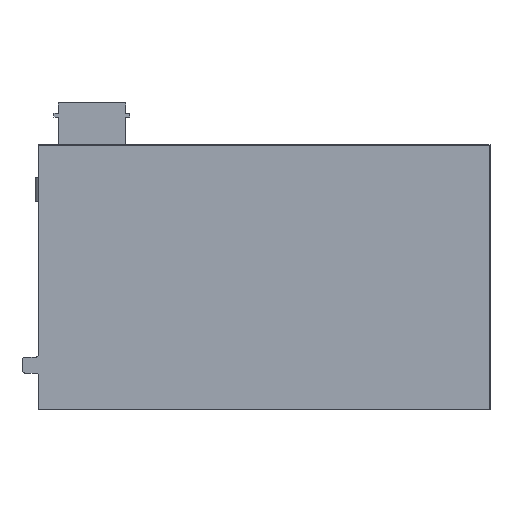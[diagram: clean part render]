
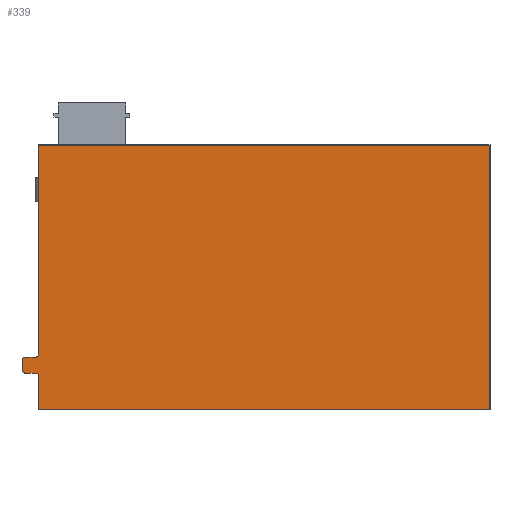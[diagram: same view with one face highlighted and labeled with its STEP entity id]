
A CAD part, top view. The second image highlights one B-rep face of the part: STEP entity #339.
In plain terms, the highlighted planar face has unit normal (0, 0, 1).
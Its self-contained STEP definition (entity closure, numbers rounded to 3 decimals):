
#115 = VERTEX_POINT('',#116);
#116 = CARTESIAN_POINT('',(-0.747,8.3,3.54));
#122 = EDGE_CURVE('',#115,#123,#125,.T.);
#123 = VERTEX_POINT('',#124);
#124 = CARTESIAN_POINT('',(-3.047,8.3,3.54));
#125 = LINE('',#126,#127);
#126 = CARTESIAN_POINT('',(0.053,8.3,3.54));
#127 = VECTOR('',#128,1.);
#128 = DIRECTION('',(-1.,0.,0.));
#146 = VERTEX_POINT('',#147);
#147 = CARTESIAN_POINT('',(0.053,7.5,3.54));
#153 = EDGE_CURVE('',#115,#146,#154,.T.);
#154 = CIRCLE('',#155,0.8);
#155 = AXIS2_PLACEMENT_3D('',#156,#157,#158);
#156 = CARTESIAN_POINT('',(-0.747,7.5,3.54));
#157 = DIRECTION('',(-0.,-0.,-1.));
#158 = DIRECTION('',(0.,-1.,0.));
#171 = VERTEX_POINT('',#172);
#172 = CARTESIAN_POINT('',(-3.847,9.1,3.54));
#178 = EDGE_CURVE('',#123,#171,#179,.T.);
#179 = CIRCLE('',#180,0.8);
#180 = AXIS2_PLACEMENT_3D('',#181,#182,#183);
#181 = CARTESIAN_POINT('',(-3.047,9.1,3.54));
#182 = DIRECTION('',(-0.,-0.,-1.));
#183 = DIRECTION('',(0.,-1.,0.));
#194 = EDGE_CURVE('',#195,#146,#197,.T.);
#195 = VERTEX_POINT('',#196);
#196 = CARTESIAN_POINT('',(0.053,0.,3.54));
#197 = LINE('',#198,#199);
#198 = CARTESIAN_POINT('',(0.053,0.,3.54));
#199 = VECTOR('',#200,1.);
#200 = DIRECTION('',(0.,1.,0.));
#207 = VERTEX_POINT('',#208);
#208 = CARTESIAN_POINT('',(0.053,12.8,3.54));
#214 = EDGE_CURVE('',#207,#215,#217,.T.);
#215 = VERTEX_POINT('',#216);
#216 = CARTESIAN_POINT('',(0.053,60.9,3.54));
#217 = LINE('',#218,#219);
#218 = CARTESIAN_POINT('',(0.053,12.,3.54));
#219 = VECTOR('',#220,1.);
#220 = DIRECTION('',(0.,1.,0.));
#254 = EDGE_CURVE('',#171,#255,#257,.T.);
#255 = VERTEX_POINT('',#256);
#256 = CARTESIAN_POINT('',(-3.847,11.2,3.54));
#257 = LINE('',#258,#259);
#258 = CARTESIAN_POINT('',(-3.847,8.3,3.54));
#259 = VECTOR('',#260,1.);
#260 = DIRECTION('',(0.,1.,0.));
#278 = EDGE_CURVE('',#279,#255,#281,.T.);
#279 = VERTEX_POINT('',#280);
#280 = CARTESIAN_POINT('',(-3.047,12.,3.54));
#281 = CIRCLE('',#282,0.8);
#282 = AXIS2_PLACEMENT_3D('',#283,#284,#285);
#283 = CARTESIAN_POINT('',(-3.047,11.2,3.54));
#284 = DIRECTION('',(-0.,0.,1.));
#285 = DIRECTION('',(0.,-1.,0.));
#303 = EDGE_CURVE('',#279,#304,#306,.T.);
#304 = VERTEX_POINT('',#305);
#305 = CARTESIAN_POINT('',(-0.747,12.,3.54));
#306 = LINE('',#307,#308);
#307 = CARTESIAN_POINT('',(-3.847,12.,3.54));
#308 = VECTOR('',#309,1.);
#309 = DIRECTION('',(1.,0.,0.));
#327 = EDGE_CURVE('',#304,#207,#328,.T.);
#328 = CIRCLE('',#329,0.8);
#329 = AXIS2_PLACEMENT_3D('',#330,#331,#332);
#330 = CARTESIAN_POINT('',(-0.747,12.8,3.54));
#331 = DIRECTION('',(-0.,0.,1.));
#332 = DIRECTION('',(0.,-1.,0.));
#339 = ADVANCED_FACE('',(#340),#373,.T.);
#340 = FACE_BOUND('',#341,.T.);
#341 = EDGE_LOOP('',(#342,#343,#351,#359,#365,#366,#367,#368,#369,#370,
    #371,#372));
#342 = ORIENTED_EDGE('',*,*,#194,.F.);
#343 = ORIENTED_EDGE('',*,*,#344,.F.);
#344 = EDGE_CURVE('',#345,#195,#347,.T.);
#345 = VERTEX_POINT('',#346);
#346 = CARTESIAN_POINT('',(104.253,0.,3.54));
#347 = LINE('',#348,#349);
#348 = CARTESIAN_POINT('',(104.253,0.,3.54));
#349 = VECTOR('',#350,1.);
#350 = DIRECTION('',(-1.,0.,0.));
#351 = ORIENTED_EDGE('',*,*,#352,.F.);
#352 = EDGE_CURVE('',#353,#345,#355,.T.);
#353 = VERTEX_POINT('',#354);
#354 = CARTESIAN_POINT('',(104.253,60.9,3.54));
#355 = LINE('',#356,#357);
#356 = CARTESIAN_POINT('',(104.253,60.9,3.54));
#357 = VECTOR('',#358,1.);
#358 = DIRECTION('',(0.,-1.,0.));
#359 = ORIENTED_EDGE('',*,*,#360,.F.);
#360 = EDGE_CURVE('',#215,#353,#361,.T.);
#361 = LINE('',#362,#363);
#362 = CARTESIAN_POINT('',(0.053,60.9,3.54));
#363 = VECTOR('',#364,1.);
#364 = DIRECTION('',(1.,0.,0.));
#365 = ORIENTED_EDGE('',*,*,#214,.F.);
#366 = ORIENTED_EDGE('',*,*,#327,.F.);
#367 = ORIENTED_EDGE('',*,*,#303,.F.);
#368 = ORIENTED_EDGE('',*,*,#278,.T.);
#369 = ORIENTED_EDGE('',*,*,#254,.F.);
#370 = ORIENTED_EDGE('',*,*,#178,.F.);
#371 = ORIENTED_EDGE('',*,*,#122,.F.);
#372 = ORIENTED_EDGE('',*,*,#153,.T.);
#373 = PLANE('',#374);
#374 = AXIS2_PLACEMENT_3D('',#375,#376,#377);
#375 = CARTESIAN_POINT('',(50.863,29.982,3.54));
#376 = DIRECTION('',(0.,0.,1.));
#377 = DIRECTION('',(1.,0.,0.));
